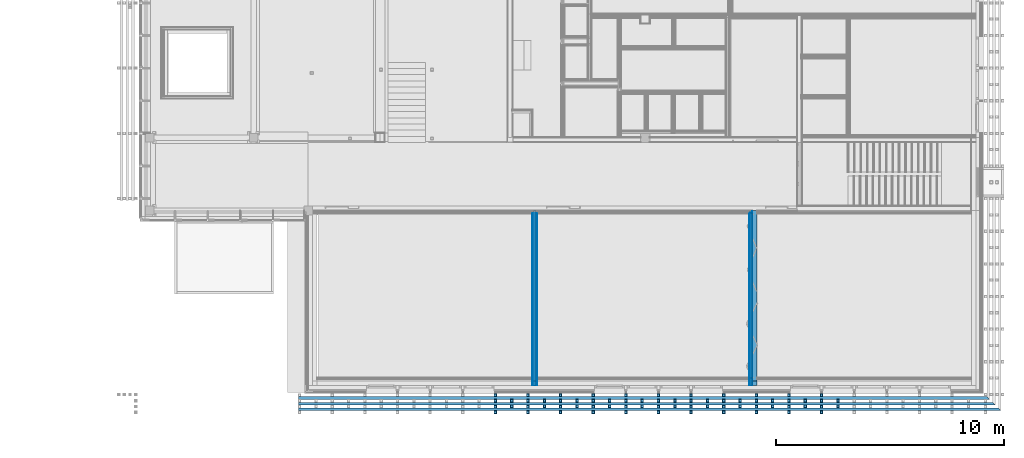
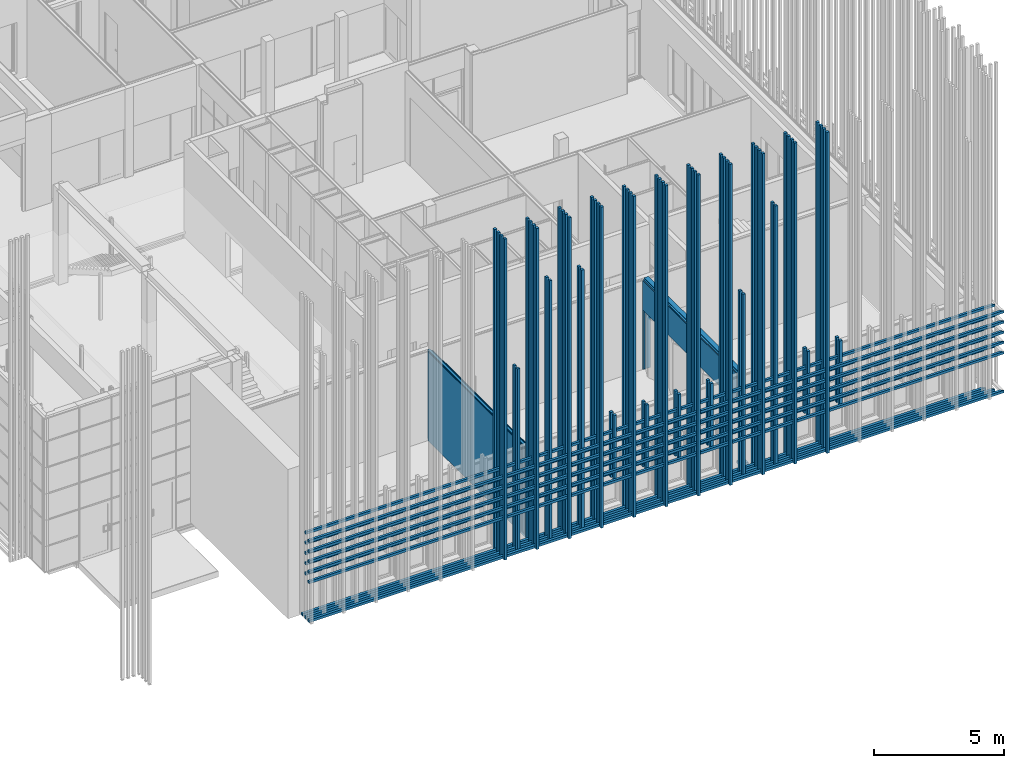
# One storey, part 196 of 260: 28 discrete accessories, 15 building element parts, 1 opening, 2 elements without a shape of their own.
"""IFC2X3 building model written with IfcOpenShell, lengths in millimetres."""

import ifcopenshell
import ifcopenshell.guid

model = None  # the IFC model being written
_history = None  # IfcOwnerHistory: only IFC2X3 demands one
_inside = {}  # id of a spatial element -> (the spatial element, [elements in it])
_under = {}  # id of a project, library or spatial element -> (it, [spatial elements below it])
_declared = {}  # id of a project -> (the project, [libraries it declares])
_typed = {}  # id of a type object -> (the type object, [elements of that type])
_made_of = {}  # id of a material, layer set ... -> (it, [elements and type objects made of it])


def new_model(schema):
    """Start an empty IFC model of exactly this schema.

    Asked for "IFC4X3", IfcOpenShell would pick the latest addendum, in which some entities
    have other attributes; the version numbers below select the first issue.
    IFC2X3 requires an IfcOwnerHistory on every rooted entity: one is made here for all.
    """
    global model, _history
    if schema == "IFC4X3":
        model = ifcopenshell.file(schema_version=(4, 3, 0, 0))
    else:
        model = ifcopenshell.file(schema=schema)
    _inside.clear()
    _under.clear()
    _declared.clear()
    _typed.clear()
    _made_of.clear()
    _history = None
    if model.schema == "IFC2X3":
        org = make("IfcOrganization", Name="unknown")
        user = make(
            "IfcPersonAndOrganization",
            ThePerson=make("IfcPerson", FamilyName="unknown"),
            TheOrganization=org,
        )
        app = make(
            "IfcApplication",
            ApplicationDeveloper=org,
            Version="unknown",
            ApplicationFullName="unknown",
            ApplicationIdentifier="unknown",
        )
        _history = make(
            "IfcOwnerHistory",
            OwningUser=user,
            OwningApplication=app,
            ChangeAction="ADDED",
            CreationDate=0,
        )
    return model


def make(cls, **values):
    """One entity of the class cls with the attributes given. An attribute that is None is left unset."""
    return model.create_entity(
        cls, **{name: value for name, value in values.items() if value is not None}
    )


def entity(cls, *values):
    """Any entity or typed value of the class cls, its attributes in the order of the schema. None: left unset."""
    e = model.create_entity(cls)
    for i, value in enumerate(values):
        if value is not None:
            e[i] = value
    return e


def rooted(cls, **values):
    """An entity with a GlobalId (a new one), such as an element, a storey or a relation."""
    return make(cls, GlobalId=ifcopenshell.guid.new(), OwnerHistory=_history, **values)


def si_unit(unit_type, name, prefix=None):
    """IfcSIUnit, for example si_unit("LENGTHUNIT", "METRE", prefix="MILLI")."""
    return make("IfcSIUnit", UnitType=unit_type, Prefix=prefix, Name=name)


def converted_unit(unit_type, name, factor, base, dimensions=None, offset=None):
    """IfcConversionBasedUnit, such as the inch: factor (a typed value) times the base unit."""
    return make(
        "IfcConversionBasedUnit"
        if offset is None
        else "IfcConversionBasedUnitWithOffset",
        ConversionOffset=offset,
        Dimensions=None
        if dimensions is None
        else entity("IfcDimensionalExponents", *dimensions),
        UnitType=unit_type,
        Name=name,
        ConversionFactor=make(
            "IfcMeasureWithUnit", ValueComponent=factor, UnitComponent=base
        ),
    )


def derived_unit(unit_type, elements):
    """IfcDerivedUnit: a product of units, each with its exponent."""
    return make(
        "IfcDerivedUnit",
        Elements=[
            make("IfcDerivedUnitElement", Unit=unit, Exponent=power)
            for unit, power in elements
        ],
        UnitType=unit_type,
    )


def money_unit(currency):
    """IfcMonetaryUnit."""
    return make("IfcMonetaryUnit", Currency=currency)


def assignment(units):
    """IfcUnitAssignment: the units of a project."""
    return None if units is None else make("IfcUnitAssignment", Units=units)


def point(xyz):
    """IfcCartesianPoint."""
    return None if xyz is None else make("IfcCartesianPoint", Coordinates=xyz)


def direction(xyz):
    """IfcDirection."""
    return None if xyz is None else make("IfcDirection", DirectionRatios=xyz)


def frame(location, z_axis=None, x_axis=None):
    """IfcAxis2Placement3D, a coordinate frame: its origin and axes. An axis left out is left unset."""
    return make(
        "IfcAxis2Placement3D",
        Location=point(location),
        Axis=direction(z_axis),
        RefDirection=direction(x_axis),
    )


def origin_with_axes():
    """The frame at (0, 0, 0) with the z axis (0, 0, 1) and the x axis (1, 0, 0) written out."""
    return frame((0.0, 0.0, 0.0), z_axis=(0.0, 0.0, 1.0), x_axis=(1.0, 0.0, 0.0))


def place(relative_to, where):
    """IfcLocalPlacement: puts the frame where relative to a parent placement (None: the world)."""
    return make(
        "IfcLocalPlacement", PlacementRelTo=relative_to, RelativePlacement=where
    )


def context(
    kind, dimensions, precision=None, world=None, true_north=None, identifier=None
):
    """IfcGeometricRepresentationContext, for example the 3D "Model" context."""
    return make(
        "IfcGeometricRepresentationContext",
        ContextIdentifier=identifier,
        ContextType=kind,
        CoordinateSpaceDimension=dimensions,
        Precision=precision,
        WorldCoordinateSystem=world,
        TrueNorth=true_north,
    )


def subcontext(parent, identifier, kind, view, scale=None):
    """IfcGeometricRepresentationSubContext, for example "Body" below "Model"."""
    return make(
        "IfcGeometricRepresentationSubContext",
        ContextIdentifier=identifier,
        ContextType=kind,
        ParentContext=parent,
        TargetScale=scale,
        TargetView=view,
    )


def project(units=None, contexts=None):
    """IfcProject with its units and contexts."""
    return rooted(
        "IfcProject",
        Name="project",
        RepresentationContexts=contexts,
        UnitsInContext=assignment(units),
    )


def spatial(cls, under=None, at=None, **own):
    """A site, building, storey or space (cls), placed at a placement, below another one or the project."""
    s = rooted(cls, ObjectPlacement=at, **own)
    if under is not None:
        _under.setdefault(under.id(), (under, []))[1].append(s)
    return s


def faces_of(points, faces, orient=None, outer=None):
    """IfcFace entities. A face is a list of loops; a loop is a list of indices into points, from 0.

    orient and outer hold one flag for each loop. By default every Orientation is true, the
    first loop of a face is its IfcFaceOuterBound and the others are IfcFaceBound.
    """
    made = []
    for i, loops in enumerate(faces):
        bounds = []
        for j, loop in enumerate(loops):
            is_outer = j == 0 if outer is None else outer[i][j]
            bounds.append(
                make(
                    "IfcFaceOuterBound" if is_outer else "IfcFaceBound",
                    Bound=make("IfcPolyLoop", Polygon=[points[k] for k in loop]),
                    Orientation=True if orient is None else orient[i][j],
                )
            )
        made.append(make("IfcFace", Bounds=bounds))
    return made


def faceted_brep(points, faces, orient=None, outer=None, voids=None):
    """IfcFacetedBrep: a solid bounded by flat faces; with voids (closed shells), ...WithVoids."""
    shared = [point(p) for p in points]
    hull = make("IfcClosedShell", CfsFaces=faces_of(shared, faces, orient, outer))
    if voids is None:
        return make("IfcFacetedBrep", Outer=hull)
    return make(
        "IfcFacetedBrepWithVoids",
        Outer=hull,
        Voids=[
            make(cls, CfsFaces=faces_of(shared, fs, o, b)) for cls, fs, o, b in voids
        ],
    )


def shape(context_of_items, identifier, shape_type, items):
    """IfcShapeRepresentation: the items that make up one representation, for example the "Body"."""
    return make(
        "IfcShapeRepresentation",
        ContextOfItems=context_of_items,
        RepresentationIdentifier=identifier,
        RepresentationType=shape_type,
        Items=items,
    )


def material(Name=None, Category=None):
    """IfcMaterial."""
    return make("IfcMaterial", Name=Name, Category=Category)


def material_list(materials):
    """IfcMaterialList."""
    return make("IfcMaterialList", Materials=materials)


def made_of(thing, what):
    """Note that an element or type object is made of a material, layer set ...; save() writes the relation."""
    if what is not None:
        _made_of.setdefault(what.id(), (what, []))[1].append(thing)
    return thing


def type_object(cls, material=None, **own):
    """A type object (cls), such as IfcWallType, which elements share."""
    return made_of(rooted(cls, **own), material)


def element(
    cls,
    number,
    at=None,
    inside=None,
    cuts=None,
    type_object=None,
    material=None,
    context=None,
    identifier="Body",
    shape_type=None,
    held_by="IfcProductDefinitionShape",
    body=None,
    shapes=None,
    **own,
):
    """One element of the class cls, such as IfcWall. Its Tag is "e" and its number.

    at: its placement. inside: the storey or other place that contains it. cuts: it is an
    opening in that element (IfcRelVoidsElement). A single representation is given by context,
    identifier, shape_type and body (its items); several are given by shapes. held_by: the class
    of the entity that holds the representations. save() writes the other relations.
    """
    e = rooted(cls, Tag="e%d" % number, ObjectPlacement=at, **own)
    if body is not None:
        shapes = [shape(context, identifier, shape_type, body)]
    if shapes is not None:
        e.Representation = make(held_by, Representations=shapes)
    if inside is not None:
        _inside.setdefault(inside.id(), (inside, []))[1].append(e)
    if cuts is not None:
        rooted(
            "IfcRelVoidsElement", RelatingBuildingElement=cuts, RelatedOpeningElement=e
        )
    if type_object is not None:
        _typed.setdefault(type_object.id(), (type_object, []))[1].append(e)
    return made_of(e, material)


def aggregate(whole, parts):
    """IfcRelAggregates: a whole, such as a stair, and the parts it consists of."""
    return rooted("IfcRelAggregates", RelatingObject=whole, RelatedObjects=parts)


def save(model, path):
    """Write the relations noted so far, then the file.

    IfcRelAggregates (storeys below a building ...), IfcRelContainedInSpatialStructure (elements
    in a storey), IfcRelDefinesByType, IfcRelAssociatesMaterial and IfcRelDeclares: one each for
    every whole, place, type object, material and project.
    """
    for whole, parts in _under.values():
        aggregate(whole, parts)
    for where, things in _inside.values():
        rooted(
            "IfcRelContainedInSpatialStructure",
            RelatedElements=things,
            RelatingStructure=where,
        )
    for kind, things in _typed.values():
        rooted("IfcRelDefinesByType", RelatedObjects=things, RelatingType=kind)
    for what, things in _made_of.values():
        rooted("IfcRelAssociatesMaterial", RelatedObjects=things, RelatingMaterial=what)
    for by, libraries in _declared.values():
        rooted("IfcRelDeclares", RelatingContext=by, RelatedDefinitions=libraries)
    model.write(path)


model = new_model("IFC2X3")

# Units and contexts
model_context = context("Model", 3, precision=0.01, world=origin_with_axes(), true_north=direction((0.0, 1.0)))
body_context = subcontext(model_context, "Body", "Model", "MODEL_VIEW")
ifc_project = project(units=[si_unit("LENGTHUNIT", "METRE", prefix="MILLI"), si_unit("AREAUNIT", "SQUARE_METRE"), si_unit("VOLUMEUNIT", "CUBIC_METRE"), converted_unit("PLANEANGLEUNIT", "DEGREE", entity("IfcPlaneAngleMeasure", 0.0174532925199), si_unit("PLANEANGLEUNIT", "RADIAN"), dimensions=[0, 0, 0, 0, 0, 0, 0]), money_unit("EUR"), converted_unit("TIMEUNIT", "Year", entity("IfcTimeMeasure", 31556926.0), si_unit("TIMEUNIT", "SECOND"), dimensions=[0, 0, 1, 0, 0, 0, 0]), si_unit("MASSUNIT", "GRAM", prefix="KILO"), si_unit("THERMODYNAMICTEMPERATUREUNIT", "DEGREE_CELSIUS"), si_unit("LUMINOUSINTENSITYUNIT", "LUMEN"), si_unit("ENERGYUNIT", "JOULE", prefix="MEGA"), derived_unit("THERMALCONDUCTANCEUNIT", [(si_unit("POWERUNIT", "WATT"), 1), (si_unit("LENGTHUNIT", "METRE"), -1), (si_unit("THERMODYNAMICTEMPERATUREUNIT", "KELVIN"), -1)]), derived_unit("SPECIFICHEATCAPACITYUNIT", [(si_unit("ENERGYUNIT", "JOULE"), 1), (si_unit("MASSUNIT", "GRAM", prefix="KILO"), -1), (si_unit("THERMODYNAMICTEMPERATUREUNIT", "KELVIN"), -1)]), derived_unit("MASSDENSITYUNIT", [(si_unit("MASSUNIT", "GRAM", prefix="KILO"), 1), (si_unit("VOLUMEUNIT", "CUBIC_METRE"), -1)])], contexts=[model_context])

# Site, building, storey
site_placement = place(None, origin_with_axes())
site = spatial("IfcSite", under=ifc_project, at=site_placement, Name="Kolde pst 67a", CompositionType="ELEMENT")
building_placement = place(site_placement, origin_with_axes())
building = spatial("IfcBuilding", under=site, at=building_placement, Name="Riigigümnaasium", CompositionType="ELEMENT")
storey_placement = place(building_placement, origin_with_axes())
storey = spatial("IfcBuildingStorey", under=building, at=storey_placement, Name="1. korrus", CompositionType="ELEMENT", Elevation=0.0)

# Discrete accessories
ifc_material_1 = material(Name="_VÄLISVIIMISTLUS - sõrmjätkatud puitprussid 120x115mm, liitekohad vähemärgatavad, Platowood sõrmjätkatud kuusk või samaväärne; eeltöödeldud tuletõkkevõõbaga, tuletundlikkus B-s1, d0, Woodsafe Exterior WFX™ või samaväärne; kinnitused vastavalt EK osale")
ifc_material_list_1 = material_list([ifc_material_1, ifc_material_1, ifc_material_1, ifc_material_1])
discrete_accessory_type_1 = type_object("IfcDiscreteAccessoryType", Name="120 4-ne vertikaalne 870 x 115")
for number, where, z_axis, x_axis in (
    (1, (63391.5984768, -311.998980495, 280.0), (0.0, 0.0, 1.0), (6.32316306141e-05, -0.999999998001, 0.0)),
    (2, (64821.598479, -312.002759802, 280.0), (0.0, 0.0, 1.0), (6.32316306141e-05, -0.999999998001, 0.0)),
    (3, (66251.5984811, -312.000556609, 280.0), (0.0, 0.0, 1.0), (6.32316306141e-05, -0.999999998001, 0.0)),
    (4, (67681.5984833, -312.001378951, 280.0), (0.0, 0.0, 1.0), (6.32316306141e-05, -0.999999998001, 0.0)),
    (5, (69111.5984854, -311.999896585, 280.0), (0.0, 0.0, 1.0), (6.32316306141e-05, -0.999999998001, 0.0)),
    (6, (70541.5985106, -312.002825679, 280.0), (0.0, 0.0, 1.0), (6.32316306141e-05, -0.999999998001, 0.0)),
    (7, (71971.5984897, -312.001056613, 280.0), (0.0, 0.0, 1.0), (6.32316306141e-05, -0.999999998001, 0.0)),
    (8, (73401.5984919, -312.001580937, 280.0), (0.0, 0.0, 1.0), (6.32316306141e-05, -0.999999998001, 0.0)),
    (9, (74831.5985084, -311.999912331, 280.0), (0.0, 0.0, 1.0), (6.32316306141e-05, -0.999999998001, 0.0)),
    (10, (76261.5985077, -311.999283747, 280.0), (0.0, 0.0, 1.0), (6.32316306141e-05, -0.999999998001, 0.0)),
    (11, (77691.5984988, -311.99915746, 280.0), (0.0, 0.0, 1.0), (6.32316306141e-05, -0.999999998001, 0.0)),
):
    element("IfcDiscreteAccessory", number, at=place(storey_placement, frame(where, z_axis=z_axis, x_axis=x_axis)), inside=storey, type_object=discrete_accessory_type_1, material=ifc_material_list_1, Name="Päikesevarjestus", context=body_context, shape_type="Brep", body=[
        faceted_brep([(133.0, 45.0, 0.0), (13.0, 45.0, 0.0), (13.0, 45.0, 15050.0), (133.0, 45.0, 15050.0), (133.0, -70.0, 0.0), (13.0, -70.0, 0.0), (13.0, -70.0, 15050.0), (133.0, -70.0, 15050.0)], [[[0, 1, 2, 3]], [[0, 4, 5, 1]], [[1, 5, 6, 2]], [[3, 2, 6, 7]], [[4, 0, 3, 7]], [[5, 4, 7, 6]]]),
        faceted_brep([(383.0, 45.0, 0.0), (263.0, 45.0, 0.0), (263.0, 45.0, 15050.0), (383.0, 45.0, 15050.0), (383.0, -70.0, 0.0), (263.0, -70.0, 0.0), (263.0, -70.0, 15050.0), (383.0, -70.0, 15050.0)], [[[0, 1, 2, 3]], [[0, 4, 5, 1]], [[1, 5, 6, 2]], [[3, 2, 6, 7]], [[4, 0, 3, 7]], [[5, 4, 7, 6]]]),
        faceted_brep([(633.0, 45.0, 0.0), (513.0, 45.0, 0.0), (513.0, 45.0, 15050.0), (633.0, 45.0, 15050.0), (633.0, -70.0, 0.0), (513.0, -70.0, 0.0), (513.0, -70.0, 15050.0), (633.0, -70.0, 15050.0)], [[[0, 1, 2, 3]], [[0, 4, 5, 1]], [[1, 5, 6, 2]], [[3, 2, 6, 7]], [[4, 0, 3, 7]], [[5, 4, 7, 6]]]),
        faceted_brep([(883.0, 45.0, 0.0), (763.0, 45.0, 0.0), (763.0, 45.0, 15050.0), (883.0, 45.0, 15050.0), (883.0, -70.0, 0.0), (763.0, -70.0, 0.0), (763.0, -70.0, 15050.0), (883.0, -70.0, 15050.0)], [[[0, 1, 2, 3]], [[0, 4, 5, 1]], [[1, 5, 6, 2]], [[3, 2, 6, 7]], [[4, 0, 3, 7]], [[5, 4, 7, 6]]]),
    ])
ifc_material_list_2 = material_list([ifc_material_1, ifc_material_1, ifc_material_1])
discrete_accessory_type_2 = type_object("IfcDiscreteAccessoryType", Name="120 1+paiksekaitse 3 tk  620 x 115")
discrete_accessory_1_placement = place(storey_placement, frame((54739.1757566, -325.005229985, 352.5), z_axis=(0.0, 0.0, 1.0), x_axis=(-6.34343497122e-08, -1.0, 0.0)))
element("IfcDiscreteAccessory", 12, at=discrete_accessory_1_placement, inside=storey, type_object=discrete_accessory_type_2, material=ifc_material_list_2, Name="Päikesevarjestus", context=body_context, shape_type="Brep", body=[
    faceted_brep([(625.0, 30690.8655772, 45.0), (625.0, 0.0, 45.0), (745.0, 0.0, 45.0), (745.0, 30810.8655701, 45.0), (625.0, 30690.8655772, -70.0), (625.0, 0.0, -70.0), (745.0, 0.0, -70.0), (745.0, 30810.8655701, -70.0)], [[[0, 1, 2, 3]], [[4, 5, 1, 0]], [[5, 6, 2, 1]], [[3, 2, 6, 7]], [[4, 0, 3, 7]], [[7, 6, 5, 4]]]),
    faceted_brep([(375.0, 30440.8655922, 45.0), (375.0, 0.0, 45.0), (495.0, 0.0, 45.0), (495.0, 30560.865585, 45.0), (375.0, 30440.8655922, -70.0), (375.0, 0.0, -70.0), (495.0, 0.0, -70.0), (495.0, 30560.865585, -70.0)], [[[0, 1, 2, 3]], [[4, 5, 1, 0]], [[5, 6, 2, 1]], [[3, 2, 6, 7]], [[4, 0, 3, 7]], [[7, 6, 5, 4]]]),
    faceted_brep([(125.0, 30190.8656072, 45.0), (125.0, 0.0, 45.0), (245.0, 0.0, 45.0), (245.0, 30310.8656, 45.0), (125.0, 30190.8656072, -70.0), (125.0, 0.0, -70.0), (245.0, 0.0, -70.0), (245.0, 30310.8656, -70.0)], [[[0, 1, 2, 3]], [[4, 5, 1, 0]], [[5, 6, 2, 1]], [[3, 2, 6, 7]], [[4, 0, 3, 7]], [[7, 6, 5, 4]]]),
])
ifc_material_list_3 = material_list([ifc_material_1, ifc_material_1])
discrete_accessory_type_3 = type_object("IfcDiscreteAccessoryType", Name="1+paiksekaitse 4 tk nihkes 2 370 x 355")
for number, where, z_axis, x_axis in (
    (13, (54739.1757592, -325.005229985, 3540.0), (0.0, 0.0, 1.0), (-6.34343497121e-08, -1.0, 0.0)),
    (14, (54739.1757592, -325.005229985, 4020.0), (0.0, 0.0, 1.0), (-6.34343497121e-08, -1.0, 0.0)),
    (15, (54739.1757592, -325.005229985, 3060.00012808), (0.0, 0.0, 1.0), (-6.34343497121e-08, -1.0, 0.0)),
    (16, (54739.1757592, -325.005229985, 2580.00014213), (0.0, 0.0, 1.0), (-6.34343497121e-08, -1.0, 0.0)),
    (17, (54739.1757592, -325.005229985, 2100.00015619), (0.0, 0.0, 1.0), (-6.34343497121e-08, -1.0, 0.0)),
):
    element("IfcDiscreteAccessory", number, at=place(storey_placement, frame(where, z_axis=z_axis, x_axis=x_axis)), inside=storey, type_object=discrete_accessory_type_3, material=ifc_material_list_3, Name="Päikesevarjestus", context=body_context, shape_type="Brep", body=[
        faceted_brep([(375.0, 30440.8655896, 347.001360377), (375.0, 0.0, 347.001360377), (495.0, 0.0, 357.5), (495.0, 30560.8655825, 357.5), (375.0, 30440.8655896, 242.5), (375.0, 0.0, 242.5), (495.0, 0.0, 242.5), (495.0, 30560.8655825, 242.5)], [[[0, 1, 2, 3]], [[4, 5, 1, 0]], [[5, 6, 2, 1]], [[3, 2, 6, 7]], [[4, 0, 3, 7]], [[7, 6, 5, 4]]]),
        faceted_brep([(625.0, 30690.8655747, 107.001360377), (625.0, 0.0, 107.001360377), (745.0, 0.0, 117.5), (745.0, 30810.8655675, 117.5), (625.0, 30690.8655747, 2.5), (625.0, 0.0, 2.5), (745.0, 0.0, 2.5), (745.0, 30810.8655675, 2.5)], [[[0, 1, 2, 3]], [[4, 5, 1, 0]], [[5, 6, 2, 1]], [[3, 2, 6, 7]], [[4, 0, 3, 7]], [[7, 6, 5, 4]]]),
    ])
discrete_accessory_type_4 = type_object("IfcDiscreteAccessoryType", Name="1+paiksekaitse 3 370 x 115")
discrete_accessory_2_placement = place(storey_placement, frame((64155.0447949, -1292.00808272, 280.0), z_axis=(0.0, 0.0, 1.0), x_axis=(0.0, 1.0, 0.0)))
element("IfcDiscreteAccessory", 18, at=discrete_accessory_2_placement, inside=storey, type_object=discrete_accessory_type_4, material=ifc_material_list_3, Name="Päikesevarjestus", context=body_context, shape_type="Brep", body=[
    faceted_brep([(467.0, 117.5, 0.0), (347.0, 117.5, 0.0), (347.0, 117.5, 8560.0), (467.0, 117.5, 8560.0), (467.0, 2.5, 0.0), (347.0, 2.5, 0.0), (347.0, 2.5, 8560.0), (467.0, 2.5, 8560.0)], [[[0, 1, 2, 3]], [[0, 4, 5, 1]], [[1, 5, 6, 2]], [[3, 2, 6, 7]], [[4, 0, 3, 7]], [[5, 4, 7, 6]]]),
    faceted_brep([(717.0, 117.5, 0.0), (597.0, 117.5, 0.0), (597.0, 117.5, 8560.0), (717.0, 117.5, 8560.0), (717.0, 2.50000000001, 0.0), (597.0, 2.50000000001, 0.0), (597.0, 2.50000000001, 8560.0), (717.0, 2.50000000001, 8560.0)], [[[0, 1, 2, 3]], [[0, 4, 5, 1]], [[1, 5, 6, 2]], [[3, 2, 6, 7]], [[4, 0, 3, 7]], [[5, 4, 7, 6]]]),
])
for number, where, z_axis, x_axis in (
    (19, (65584.1376827, -1292.00007473, 280.0), (0.0, 0.0, 1.0), (0.0, 1.0, 0.0)),
    (20, (67014.1376849, -1292.00007473, 280.0), (0.0, 0.0, 1.0), (0.0, 1.0, 0.0)),
):
    element("IfcDiscreteAccessory", number, at=place(storey_placement, frame(where, z_axis=z_axis, x_axis=x_axis)), inside=storey, type_object=discrete_accessory_type_4, material=ifc_material_list_3, Name="Päikesevarjestus", context=body_context, shape_type="Brep", body=[
        faceted_brep([(467.0, 117.5, 0.0), (347.0, 117.5, 0.0), (347.0, 117.5, 12197.5), (467.0, 117.5, 12197.5), (467.0, 2.5, 0.0), (347.0, 2.5, 0.0), (347.0, 2.5, 12197.5), (467.0, 2.5, 12197.5)], [[[0, 1, 2, 3]], [[0, 4, 5, 1]], [[1, 5, 6, 2]], [[3, 2, 6, 7]], [[4, 0, 3, 7]], [[5, 4, 7, 6]]]),
        faceted_brep([(717.0, 117.5, 0.0), (597.0, 117.5, 0.0), (597.0, 117.5, 12197.5), (717.0, 117.5, 12197.5), (717.0, 2.50000000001, 0.0), (597.0, 2.50000000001, 0.0), (597.0, 2.50000000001, 12197.5), (717.0, 2.50000000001, 12197.5)], [[[0, 1, 2, 3]], [[0, 4, 5, 1]], [[1, 5, 6, 2]], [[3, 2, 6, 7]], [[4, 0, 3, 7]], [[5, 4, 7, 6]]]),
    ])
for number, where, z_axis, x_axis in (
    (21, (68444.137687, -1292.00007473, 2100.00014213), (0.0, 0.0, 1.0), (0.0, 1.0, 0.0)),
    (22, (69874.1301014, -1292.00007473, 2100.00014213), (0.0, 0.0, 1.0), (0.0, 1.0, 0.0)),
    (23, (71305.03727, -1292.00007473, 2100.00014213), (0.0, 0.0, 1.0), (0.0, 1.0, 0.0)),
    (24, (72735.0448369, -1292.00007473, 2100.00014213), (0.0, 0.0, 1.0), (0.0, 1.0, 0.0)),
):
    element("IfcDiscreteAccessory", number, at=place(storey_placement, frame(where, z_axis=z_axis, x_axis=x_axis)), inside=storey, type_object=discrete_accessory_type_4, material=ifc_material_list_3, Name="Päikesevarjestus", context=body_context, shape_type="Brep", body=[
        faceted_brep([(467.0, 117.5, 0.0), (347.0, 117.5, 0.0), (347.0, 117.5, 3050.0), (467.0, 117.5, 3050.0), (467.0, 2.5, 0.0), (347.0, 2.5, 0.0), (347.0, 2.5, 3050.0), (467.0, 2.5, 3050.0)], [[[0, 1, 2, 3]], [[0, 4, 5, 1]], [[1, 5, 6, 2]], [[3, 2, 6, 7]], [[4, 0, 3, 7]], [[5, 4, 7, 6]]]),
        faceted_brep([(717.0, 117.5, 0.0), (597.0, 117.5, 0.0), (597.0, 117.5, 3050.0), (717.0, 117.5, 3050.0), (717.0, 2.50000000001, 0.0), (597.0, 2.50000000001, 0.0), (597.0, 2.50000000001, 3050.0), (717.0, 2.50000000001, 3050.0)], [[[0, 1, 2, 3]], [[0, 4, 5, 1]], [[1, 5, 6, 2]], [[3, 2, 6, 7]], [[4, 0, 3, 7]], [[5, 4, 7, 6]]]),
    ])
discrete_accessory_3_placement = place(storey_placement, frame((74164.1376956, -1292.00007473, 280.0), z_axis=(0.0, 0.0, 1.0), x_axis=(0.0, 1.0, 0.0)))
element("IfcDiscreteAccessory", 25, at=discrete_accessory_3_placement, inside=storey, type_object=discrete_accessory_type_4, material=ifc_material_list_3, Name="Päikesevarjestus", context=body_context, shape_type="Brep", body=[
    faceted_brep([(467.0, 117.5, 0.0), (347.0, 117.5, 0.0), (347.0, 117.5, 8560.0), (467.0, 117.5, 8560.0), (467.0, 2.5, 0.0), (347.0, 2.5, 0.0), (347.0, 2.5, 8560.0), (467.0, 2.5, 8560.0)], [[[0, 1, 2, 3]], [[0, 4, 5, 1]], [[1, 5, 6, 2]], [[3, 2, 6, 7]], [[4, 0, 3, 7]], [[5, 4, 7, 6]]]),
    faceted_brep([(717.0, 117.5, 0.0), (597.0, 117.5, 0.0), (597.0, 117.5, 8560.0), (717.0, 117.5, 8560.0), (717.0, 2.50000000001, 0.0), (597.0, 2.50000000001, 0.0), (597.0, 2.50000000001, 8560.0), (717.0, 2.50000000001, 8560.0)], [[[0, 1, 2, 3]], [[0, 4, 5, 1]], [[1, 5, 6, 2]], [[3, 2, 6, 7]], [[4, 0, 3, 7]], [[5, 4, 7, 6]]]),
])
discrete_accessory_4_placement = place(storey_placement, frame((75594.1377122, -1292.00007473, 280.0), z_axis=(0.0, 0.0, 1.0), x_axis=(0.0, 1.0, 0.0)))
element("IfcDiscreteAccessory", 26, at=discrete_accessory_4_placement, inside=storey, type_object=discrete_accessory_type_4, material=ifc_material_list_3, Name="Päikesevarjestus", context=body_context, shape_type="Brep", body=[
    faceted_brep([(467.0, 117.5, 0.0), (347.0, 117.5, 0.0), (347.0, 117.5, 12197.5), (467.0, 117.5, 12197.5), (467.0, 2.5, 0.0), (347.0, 2.5, 0.0), (347.0, 2.5, 12197.5), (467.0, 2.5, 12197.5)], [[[0, 1, 2, 3]], [[0, 4, 5, 1]], [[1, 5, 6, 2]], [[3, 2, 6, 7]], [[4, 0, 3, 7]], [[5, 4, 7, 6]]]),
    faceted_brep([(717.0, 117.5, 0.0), (597.0, 117.5, 0.0), (597.0, 117.5, 12197.5), (717.0, 117.5, 12197.5), (717.0, 2.50000000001, 0.0), (597.0, 2.50000000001, 0.0), (597.0, 2.50000000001, 12197.5), (717.0, 2.50000000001, 12197.5)], [[[0, 1, 2, 3]], [[0, 4, 5, 1]], [[1, 5, 6, 2]], [[3, 2, 6, 7]], [[4, 0, 3, 7]], [[5, 4, 7, 6]]]),
])
for number, where, z_axis, x_axis in (
    (27, (77024.1377115, -1292.0038668, 2100.00014213), (0.0, 0.0, 1.0), (0.0, 1.0, 0.0)),
    (28, (78455.0231689, -1292.00007473, 2100.00014213), (0.0, 0.0, 1.0), (0.0, 1.0, 0.0)),
):
    element("IfcDiscreteAccessory", number, at=place(storey_placement, frame(where, z_axis=z_axis, x_axis=x_axis)), inside=storey, type_object=discrete_accessory_type_4, material=ifc_material_list_3, Name="Päikesevarjestus", context=body_context, shape_type="Brep", body=[
        faceted_brep([(467.0, 117.5, 0.0), (347.0, 117.5, 0.0), (347.0, 117.5, 3050.0), (467.0, 117.5, 3050.0), (467.0, 2.5, 0.0), (347.0, 2.5, 0.0), (347.0, 2.5, 3050.0), (467.0, 2.5, 3050.0)], [[[0, 1, 2, 3]], [[0, 4, 5, 1]], [[1, 5, 6, 2]], [[3, 2, 6, 7]], [[4, 0, 3, 7]], [[5, 4, 7, 6]]]),
        faceted_brep([(717.0, 117.5, 0.0), (597.0, 117.5, 0.0), (597.0, 117.5, 3050.0), (717.0, 117.5, 3050.0), (717.0, 2.50000000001, 0.0), (597.0, 2.50000000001, 0.0), (597.0, 2.50000000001, 3050.0), (717.0, 2.50000000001, 3050.0)], [[[0, 1, 2, 3]], [[0, 4, 5, 1]], [[1, 5, 6, 2]], [[3, 2, 6, 7]], [[4, 0, 3, 7]], [[5, 4, 7, 6]]]),
    ])

# Wall, building element parts
wall_type_1 = type_object("IfcWallType", Name="SS-PK-10/4_vill100+2värv distantsliistudega 220", PredefinedType="NOTDEFINED")
wall_1_placement = place(storey_placement, frame((65209.9904368, 7900.0, 0.0), z_axis=(0.0, 0.0, 1.0), x_axis=(0.0, -1.0, 0.0)))
wall_1 = element("IfcWall", 29, at=wall_1_placement, inside=storey, type_object=wall_type_1, Name="Sisesein")
ifc_material_2 = material(Name="_VIIMISTLUSKIHT - viimistlus vastavalt SA osale")
building_element_part_1_placement = place(wall_1_placement, origin_with_axes())
building_element_part_1 = element("IfcBuildingElementPart", 30, at=building_element_part_1_placement, material=ifc_material_2, Name="_VIIMISTLUSKIHT - viimistlus vastavalt SA osale", context=body_context, shape_type="Brep", body=[
    faceted_brep([(340.0, -5.0, 4170.0), (340.0, 0.0, 4170.0), (340.0, 0.0, 0.0), (340.0, -5.0, 0.0), (7530.0, 0.0, 4170.0), (7530.0, -5.0, 4170.0), (7530.0, 0.0, 100.0), (7860.0, 0.0, 100.0), (7860.0, 0.0, 0.0), (7860.0, -5.0, 0.0), (7860.0, -5.0, 100.0), (7530.0, -5.0, 100.0)], [[[0, 1, 2, 3]], [[4, 1, 0, 5]], [[1, 4, 6, 7, 8, 2]], [[3, 2, 8, 9]], [[5, 0, 3, 9, 10, 11]], [[4, 5, 11, 6]], [[7, 6, 11, 10]], [[8, 7, 10, 9]]]),
])
ifc_material_3 = material(Name="_PLAATMATERJAL - tuletõkkekipsplaat, Knauf Red GKF või samaväärne")
building_element_part_2_placement = place(wall_1_placement, origin_with_axes())
building_element_part_2 = element("IfcBuildingElementPart", 31, at=building_element_part_2_placement, material=ifc_material_3, Name="_PLAATMATERJAL - tuletõkkekipsplaat, Knauf Red GKF või samaväärne", context=body_context, shape_type="Brep", body=[
    faceted_brep([(330.0, -20.0, 4170.0), (330.0, -5.0, 4170.0), (330.0, -5.0, 0.0), (330.0, -20.0, 0.0), (7530.0, -5.0, 4170.0), (7530.0, -20.0, 4170.0), (7530.0, -5.0, 100.0), (7860.0, -5.0, 100.0), (7860.0, -5.0, 0.0), (7860.0, -20.0, 0.0), (7860.0, -20.0, 100.0), (7530.0, -20.0, 100.0)], [[[0, 1, 2, 3]], [[4, 1, 0, 5]], [[1, 4, 6, 7, 8, 2]], [[3, 2, 8, 9]], [[5, 0, 3, 9, 10, 11]], [[4, 5, 11, 6]], [[7, 6, 11, 10]], [[8, 7, 10, 9]]]),
])
ifc_material_4 = material(Name="_PLAATMATERJAL - OSB3 plaat")
building_element_part_3_placement = place(wall_1_placement, origin_with_axes())
building_element_part_3 = element("IfcBuildingElementPart", 32, at=building_element_part_3_placement, material=ifc_material_4, Name="_PLAATMATERJAL - OSB3 plaat", context=body_context, shape_type="Brep", body=[
    faceted_brep([(315.0, -35.0, 4170.0), (315.0, -20.0, 4170.0), (315.0, -20.0, 0.0), (315.0, -35.0, 0.0), (7530.0, -20.0, 4170.0), (7530.0, -35.0, 4170.0), (7530.0, -20.0, 100.0), (7860.0, -20.0, 100.0), (7860.0, -20.0, 0.0), (7860.0, -35.0, 0.0), (7860.0, -35.0, 100.0), (7530.0, -35.0, 100.0)], [[[0, 1, 2, 3]], [[4, 1, 0, 5]], [[1, 4, 6, 7, 8, 2]], [[3, 2, 8, 9]], [[5, 0, 3, 9, 10, 11]], [[4, 5, 11, 6]], [[7, 6, 11, 10]], [[8, 7, 10, 9]]]),
])
ifc_material_5 = material(Name="_KARKASS- distantasliist")
building_element_part_4_placement = place(wall_1_placement, origin_with_axes())
building_element_part_4 = element("IfcBuildingElementPart", 33, at=building_element_part_4_placement, material=ifc_material_5, Name="_KARKASS- distantasliist", context=body_context, shape_type="Brep", body=[
    faceted_brep([(315.0, -60.0, 4170.0), (315.0, -35.0, 4170.0), (315.0, -35.0, 0.0), (315.0, -60.0, 0.0), (7530.0, -35.0, 4170.0), (7530.0, -60.0, 4170.0), (7530.0, -35.0, 100.0), (7860.0, -35.0, 100.0), (7860.0, -35.0, 0.0), (7860.0, -60.0, 0.0), (7860.0, -60.0, 100.0), (7530.0, -60.0, 100.0)], [[[0, 1, 2, 3]], [[4, 1, 0, 5]], [[1, 4, 6, 7, 8, 2]], [[3, 2, 8, 9]], [[5, 0, 3, 9, 10, 11]], [[4, 5, 11, 6]], [[7, 6, 11, 10]], [[8, 7, 10, 9]]]),
])
ifc_material_6 = material(Name="_KARKASS - puitpruss 100x50mm vertikaalne, samm 600mm, vahel mineraalvill, helineeldetegur αw = 1.0, ISOVER ACOUSTIC 100mm või samaväärne")
building_element_part_5_placement = place(wall_1_placement, origin_with_axes())
building_element_part_5 = element("IfcBuildingElementPart", 34, at=building_element_part_5_placement, material=ifc_material_6, Name="_KARKASS - puitpruss 100x50mm vertikaalne, samm 600mm, vahel mineraalvill, helineeldetegur αw = 1.0, ISOVER ACOUSTIC 100mm või samaväärne", context=body_context, shape_type="Brep", body=[
    faceted_brep([(200.0, -160.0, 4170.0), (200.0, -60.0, 4170.0), (200.0, -60.0, 0.0), (200.0, -160.0, 0.0), (7660.0, -60.0, 4170.0), (7660.0, -160.0, 4170.0), (7660.0, -60.0, 100.0), (7860.0, -60.0, 100.0), (7860.0, -60.0, 0.0), (7860.0, -160.0, 0.0), (7860.0, -160.0, 100.0), (7660.0, -160.0, 100.0)], [[[0, 1, 2, 3]], [[4, 1, 0, 5]], [[1, 4, 6, 7, 8, 2]], [[3, 2, 8, 9]], [[5, 0, 3, 9, 10, 11]], [[4, 5, 11, 6]], [[10, 7, 6, 11]], [[8, 7, 10, 9]]]),
])
building_element_part_6_placement = place(wall_1_placement, origin_with_axes())
building_element_part_6 = element("IfcBuildingElementPart", 35, at=building_element_part_6_placement, material=ifc_material_5, Name="_KARKASS- distantasliist", context=body_context, shape_type="Brep", body=[
    faceted_brep([(315.0, -185.0, 4170.0), (315.0, -160.0, 4170.0), (315.0, -160.0, 0.0), (315.0, -185.0, 0.0), (7530.0, -160.0, 4170.0), (7530.0, -185.0, 4170.0), (7530.0, -160.0, 100.0), (7860.0, -160.0, 100.0), (7860.0, -160.0, 0.0), (7860.0, -185.0, 0.0), (7860.0, -185.0, 100.0), (7530.0, -185.0, 100.0)], [[[0, 1, 2, 3]], [[4, 1, 0, 5]], [[1, 4, 6, 7, 8, 2]], [[3, 2, 8, 9]], [[5, 0, 3, 9, 10, 11]], [[4, 5, 11, 6]], [[7, 6, 11, 10]], [[8, 7, 10, 9]]]),
])
building_element_part_7_placement = place(wall_1_placement, origin_with_axes())
building_element_part_7 = element("IfcBuildingElementPart", 36, at=building_element_part_7_placement, material=ifc_material_4, Name="_PLAATMATERJAL - OSB3 plaat", context=body_context, shape_type="Brep", body=[
    faceted_brep([(315.0, -200.0, 4170.0), (315.0, -185.0, 4170.0), (315.0, -185.0, 0.0), (315.0, -200.0, 0.0), (7530.0, -185.0, 4170.0), (7530.0, -200.0, 4170.0), (7530.0, -185.0, 100.0), (7860.0, -185.0, 100.0), (7860.0, -185.0, 0.0), (7860.0, -200.0, 0.0), (7860.0, -200.0, 100.0), (7530.0, -200.0, 100.0)], [[[0, 1, 2, 3]], [[4, 1, 0, 5]], [[1, 4, 6, 7, 8, 2]], [[3, 2, 8, 9]], [[5, 0, 3, 9, 10, 11]], [[4, 5, 11, 6]], [[7, 6, 11, 10]], [[8, 7, 10, 9]]]),
])
building_element_part_8_placement = place(wall_1_placement, origin_with_axes())
building_element_part_8 = element("IfcBuildingElementPart", 37, at=building_element_part_8_placement, material=ifc_material_3, Name="_PLAATMATERJAL - tuletõkkekipsplaat, Knauf Red GKF või samaväärne", context=body_context, shape_type="Brep", body=[
    faceted_brep([(330.0, -215.0, 4170.0), (330.0, -200.0, 4170.0), (330.0, -200.0, 0.0), (330.0, -215.0, 0.0), (7530.0, -200.0, 4170.0), (7530.0, -215.0, 4170.0), (7530.0, -200.0, 100.0), (7860.0, -200.0, 100.0), (7860.0, -200.0, 0.0), (7860.0, -215.0, 0.0), (7860.0, -215.0, 100.0), (7530.0, -215.0, 100.0)], [[[0, 1, 2, 3]], [[4, 1, 0, 5]], [[1, 4, 6, 7, 8, 2]], [[3, 2, 8, 9]], [[5, 0, 3, 9, 10, 11]], [[4, 5, 11, 6]], [[7, 6, 11, 10]], [[8, 7, 10, 9]]]),
])
building_element_part_9_placement = place(wall_1_placement, origin_with_axes())
building_element_part_9 = element("IfcBuildingElementPart", 38, at=building_element_part_9_placement, material=ifc_material_2, Name="_VIIMISTLUSKIHT - viimistlus vastavalt SA osale", context=body_context, shape_type="Brep", body=[
    faceted_brep([(340.0, -220.0, 4170.0), (340.0, -215.0, 4170.0), (340.0, -215.0, 0.0), (340.0, -220.0, 0.0), (7530.0, -215.0, 4170.0), (7530.0, -220.0, 4170.0), (7530.0, -215.0, 100.0), (7860.0, -215.0, 100.0), (7860.0, -215.0, 0.0), (7860.0, -220.0, 0.0), (7860.0, -220.0, 100.0), (7530.0, -220.0, 100.0)], [[[0, 1, 2, 3]], [[4, 1, 0, 5]], [[1, 4, 6, 7, 8, 2]], [[3, 2, 8, 9]], [[5, 0, 3, 9, 10, 11]], [[4, 5, 11, 6]], [[7, 6, 11, 10]], [[8, 7, 10, 9]]]),
])
aggregate(wall_1, [building_element_part_1, building_element_part_2, building_element_part_3, building_element_part_4, building_element_part_5, building_element_part_6, building_element_part_7, building_element_part_8, building_element_part_9])

# Wall, opening, building element parts
wall_type_2 = type_object("IfcWallType", Name="SS-CLT-20/1_vill+krohv 340", PredefinedType="NOTDEFINED")
wall_2_placement = place(storey_placement, frame((74849.9948823, 7900.0, 0.0), z_axis=(0.0, 0.0, 1.0), x_axis=(0.0, -1.0, 0.0)))
wall_2 = element("IfcWall", 39, at=wall_2_placement, inside=storey, type_object=wall_type_2, Name="Sisesein")
opening_placement = place(wall_2_placement, frame((3942.5, 0.0, 0.0), z_axis=(0.0, 0.0, 1.0), x_axis=(1.0, 0.0, 0.0)))
element("IfcOpeningElement", 40, at=opening_placement, cuts=wall_2, Name="Siirdesein", context=body_context, shape_type="Brep", body=[
    faceted_brep([(3587.5, -240.0, 2800.0), (3587.5, -240.0, 0.0), (3587.5, 340.0, 0.0), (3587.5, 340.0, 2800.0), (-3587.5, -240.0, 2800.0), (-3587.5, -240.0, 0.0), (-3587.5, 340.0, 0.0), (-3587.5, 340.0, 2800.0)], [[[0, 1, 2, 3]], [[0, 4, 5, 1]], [[1, 5, 6, 2]], [[3, 2, 6, 7]], [[4, 0, 3, 7]], [[5, 4, 7, 6]]]),
    faceted_brep([(3587.5, -240.0, 0.0), (3587.5, -240.0, 2800.0), (3587.5, -680.0, 2800.0), (3587.5, -680.0, 0.0), (-3587.5, -240.0, 0.0), (-3587.5, -240.0, 2800.0), (-3587.5, -680.0, 2800.0), (-3587.5, -680.0, 0.0)], [[[0, 1, 2, 3]], [[0, 4, 5, 1]], [[1, 5, 6, 2]], [[3, 2, 6, 7]], [[4, 0, 3, 7]], [[5, 4, 7, 6]]]),
])
ifc_material_7 = material(Name="_KANDETARIND - CLT ristkihtliimpuit vastavalt EK osale, CLT paigaldusvuugid teibitakse ROTHOBLAAS teibiga")
building_element_part_10_placement = place(wall_2_placement, origin_with_axes())
building_element_part_10 = element("IfcBuildingElementPart", 41, at=building_element_part_10_placement, material=ifc_material_7, Name="_KANDETARIND - CLT ristkihtliimpuit vastavalt EK osale, CLT paigaldusvuugid teibitakse ROTHOBLAAS teibiga", context=body_context, shape_type="Brep", body=[
    faceted_brep([(7530.0, 0.0, 0.0), (7530.0, 0.0, 2800.0), (355.0, 0.0, 2800.0), (355.0, 0.0, 0.0), (200.0, 0.0, 0.0), (200.0, 0.0, 4170.0), (7660.0, 0.0, 4170.0), (7660.0, 0.0, 100.0), (7860.0, 0.0, 100.0), (7860.0, 0.0, 0.0), (7530.0, -200.000001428, 0.0), (7530.0, -200.000000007, 2800.0), (355.0, -200.000000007, 2800.0), (355.0, -200.000000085, 0.0), (200.0, -200.000000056, 0.0), (200.0, -200.0, 4170.0), (7660.0, -200.000000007, 4170.0), (7660.0, -200.00000149, 100.0), (7860.0, -200.00000149, 100.0), (7860.0, -200.00000149, 0.0)], [[[0, 1, 2, 3, 4, 5, 6, 7, 8, 9]], [[1, 0, 10, 11]], [[2, 1, 11, 12]], [[3, 2, 12, 13]], [[3, 13, 14, 4]], [[5, 4, 14, 15]], [[5, 15, 16, 6]], [[16, 17, 7, 6]], [[8, 7, 17, 18]], [[8, 18, 19, 9]], [[10, 0, 9, 19]], [[11, 10, 19, 18, 17, 16, 15, 14, 13, 12]]]),
])
ifc_material_8 = material(Name="_ÕHKVAHE")
building_element_part_11_placement = place(wall_2_placement, origin_with_axes())
building_element_part_11 = element("IfcBuildingElementPart", 42, at=building_element_part_11_placement, material=ifc_material_8, Name="_ÕHKVAHE", context=body_context, shape_type="Brep", body=[
    faceted_brep([(7530.0, -200.000001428, 0.0), (7530.0, -200.00000149, 100.0), (7860.0, -200.00000149, 100.0), (7860.0, -200.00000149, 0.0), (7530.0, -214.999999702, 100.0), (7530.0, -214.999999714, 0.0), (7860.0, -214.999999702, 100.0), (7860.0, -214.999999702, 0.0)], [[[0, 1, 2, 3]], [[4, 1, 0, 5]], [[1, 4, 6, 2]], [[2, 6, 7, 3]], [[5, 0, 3, 7]], [[4, 5, 7, 6]]]),
    faceted_brep([(355.0, -200.0, 2800.0), (355.0, -200.000000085, 0.0), (215.0, -200.000000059, 0.0), (215.0, -200.0, 4170.0), (7530.0, -200.000000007, 4170.0), (7530.0, -200.000000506, 2800.0), (355.0, -214.999999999, 2800.0), (355.0, -214.999999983, 0.0), (215.0, -214.999999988, 0.0), (215.0, -215.0, 4170.0), (7530.0, -214.999999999, 4170.0), (7530.0, -214.999999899, 2800.0)], [[[0, 1, 2, 3, 4, 5]], [[1, 0, 6, 7]], [[1, 7, 8, 2]], [[3, 2, 8, 9]], [[3, 9, 10, 4]], [[11, 5, 4, 10]], [[0, 5, 11, 6]], [[6, 11, 10, 9, 8, 7]]]),
])
ifc_material_9 = material(Name="_KARKASS - metallkarkass CW 75/50/06 ja UW 75/40/06, samm 600, vahel mineraalvill, helineeldetegur αw = 1.0,  ISOVER ACOUSTIC 75mm või samaväärne")
building_element_part_12_placement = place(wall_2_placement, origin_with_axes())
building_element_part_12 = element("IfcBuildingElementPart", 43, at=building_element_part_12_placement, material=ifc_material_9, Name="_KARKASS - metallkarkass CW 75/50/06 ja UW 75/40/06, samm 600, vahel mineraalvill, helineeldetegur αw = 1.0,  ISOVER ACOUSTIC 75mm või samaväärne", context=body_context, shape_type="Brep", body=[
    faceted_brep([(7530.0, -214.999999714, 0.0), (7530.0, -214.999999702, 100.0), (7860.0, -214.999999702, 100.0), (7860.0, -214.999999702, 0.0), (7530.0, -240.0, 100.0), (7530.0, -240.0, 0.0), (7530.0, -290.000000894, 100.0), (7860.0, -290.000000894, 100.0), (7860.0, -290.000000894, 0.0), (7530.0, -290.000000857, 0.0)], [[[0, 1, 2, 3]], [[4, 1, 0, 5]], [[1, 4, 6, 7, 2]], [[7, 8, 3, 2]], [[5, 0, 3, 8, 9]], [[4, 5, 9, 6]], [[9, 8, 7, 6]]]),
    faceted_brep([(355.0, -214.999999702, 2800.0), (355.0, -214.999999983, 0.0), (290.0, -214.999999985, 0.0), (290.0, -215.0, 4170.0), (7530.0, -214.999999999, 4170.0), (7530.0, -214.999999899, 2800.0), (355.0, -240.0, 2800.0), (355.0, -240.0, 0.0), (355.0, -290.000000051, 0.0), (290.0, -290.000000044, 0.0), (290.0, -290.0, 4170.0), (7530.0, -290.000000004, 4170.0), (7530.0, -240.0, 2800.0), (7530.0, -290.000000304, 2800.0), (355.0, -290.000000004, 2800.0)], [[[0, 1, 2, 3, 4, 5]], [[1, 0, 6, 7]], [[1, 7, 8, 9, 2]], [[2, 9, 10, 3]], [[10, 11, 4, 3]], [[12, 5, 4, 11, 13]], [[0, 5, 12, 6]], [[7, 6, 14, 8]], [[10, 9, 8, 14, 13, 11]], [[6, 12, 13, 14]]]),
])
building_element_part_13_placement = place(wall_2_placement, origin_with_axes())
building_element_part_13 = element("IfcBuildingElementPart", 44, at=building_element_part_13_placement, material=ifc_material_4, Name="_PLAATMATERJAL - OSB3 plaat", context=body_context, shape_type="Brep", body=[
    faceted_brep([(7530.0, -290.000000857, 0.0), (7530.0, -290.000000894, 100.0), (7860.0, -290.000000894, 100.0), (7860.0, -290.000000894, 0.0), (7530.0, -299.999999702, 100.0), (7530.0, -299.999999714, 0.0), (7860.0, -299.999999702, 100.0), (7860.0, -299.999999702, 0.0)], [[[0, 1, 2, 3]], [[4, 1, 0, 5]], [[1, 4, 6, 2]], [[2, 6, 7, 3]], [[5, 0, 3, 7]], [[4, 5, 7, 6]]]),
    faceted_brep([(355.0, -290.0, 2800.0), (355.0, -290.000000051, 0.0), (300.0, -290.000000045, 0.0), (300.0, -290.0, 4170.0), (7530.0, -290.000000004, 4170.0), (7530.0, -290.000000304, 2800.0), (355.0, -299.999999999, 2800.0), (355.0, -299.999999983, 0.0), (300.0, -299.999999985, 0.0), (300.0, -300.0, 4170.0), (7530.0, -299.999999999, 4170.0), (7530.0, -299.999999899, 2800.0)], [[[0, 1, 2, 3, 4, 5]], [[1, 0, 6, 7]], [[1, 7, 8, 2]], [[3, 2, 8, 9]], [[3, 9, 10, 4]], [[11, 5, 4, 10]], [[0, 5, 11, 6]], [[6, 11, 10, 9, 8, 7]]]),
])
building_element_part_14_placement = place(wall_2_placement, origin_with_axes())
building_element_part_14 = element("IfcBuildingElementPart", 45, at=building_element_part_14_placement, material=ifc_material_3, Name="_PLAATMATERJAL - tuletõkkekipsplaat, Knauf Red GKF või samaväärne", context=body_context, shape_type="Brep", body=[
    faceted_brep([(7530.0, -315.0, 0.0), (7530.0, -315.0, 100.0), (7860.0, -315.0, 100.0), (7860.0, -315.0, 0.0), (7530.0, -330.000001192, 100.0), (7530.0, -330.000001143, 0.0), (7860.0, -330.000001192, 100.0), (7860.0, -330.000001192, 0.0)], [[[0, 1, 2, 3]], [[4, 1, 0, 5]], [[1, 4, 6, 2]], [[2, 6, 7, 3]], [[5, 0, 3, 7]], [[4, 5, 7, 6]]]),
    faceted_brep([(355.0, -315.0, 2800.0), (355.0, -315.0, 0.0), (330.0, -315.0, 0.0), (330.0, -315.0, 4170.0), (7530.0, -315.0, 4170.0), (7530.0, -315.0, 2800.0), (355.0, -330.000000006, 2800.0), (355.0, -330.000000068, 0.0), (330.0, -330.000000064, 0.0), (330.0, -330.0, 4170.0), (7530.0, -330.000000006, 4170.0), (7530.0, -330.000000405, 2800.0)], [[[0, 1, 2, 3, 4, 5]], [[1, 0, 6, 7]], [[1, 7, 8, 2]], [[3, 2, 8, 9]], [[3, 9, 10, 4]], [[11, 5, 4, 10]], [[0, 5, 11, 6]], [[6, 11, 10, 9, 8, 7]]]),
])
building_element_part_15_placement = place(wall_2_placement, origin_with_axes())
building_element_part_15 = element("IfcBuildingElementPart", 46, at=building_element_part_15_placement, material=ifc_material_2, Name="_VIIMISTLUSKIHT - viimistlus vastavalt SA osale", context=body_context, shape_type="Brep", body=[
    faceted_brep([(7530.0, -330.000001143, 0.0), (7530.0, -330.000001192, 100.0), (7860.0, -330.000001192, 100.0), (7860.0, -330.000001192, 0.0), (7530.0, -340.0, 100.0), (7530.0, -340.0, 0.0), (7860.0, -340.0, 100.0), (7860.0, -340.0, 0.0)], [[[0, 1, 2, 3]], [[4, 1, 0, 5]], [[1, 4, 6, 2]], [[2, 6, 7, 3]], [[5, 0, 3, 7]], [[4, 5, 7, 6]]]),
    faceted_brep([(355.0, -330.0, 2800.0), (355.0, -330.000000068, 0.0), (340.0, -330.000000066, 0.0), (340.0, -330.0, 4170.0), (7530.0, -330.000000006, 4170.0), (7530.0, -330.000000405, 2800.0), (355.0, -340.0, 2800.0), (355.0, -340.0, 0.0), (340.0, -340.0, 0.0), (340.0, -340.0, 4170.0), (7530.0, -340.0, 4170.0), (7530.0, -340.0, 2800.0)], [[[0, 1, 2, 3, 4, 5]], [[1, 0, 6, 7]], [[1, 7, 8, 2]], [[3, 2, 8, 9]], [[3, 9, 10, 4]], [[11, 5, 4, 10]], [[0, 5, 11, 6]], [[6, 11, 10, 9, 8, 7]]]),
])
aggregate(wall_2, [building_element_part_10, building_element_part_11, building_element_part_12, building_element_part_13, building_element_part_14, building_element_part_15])

save(model, "model.ifc")
